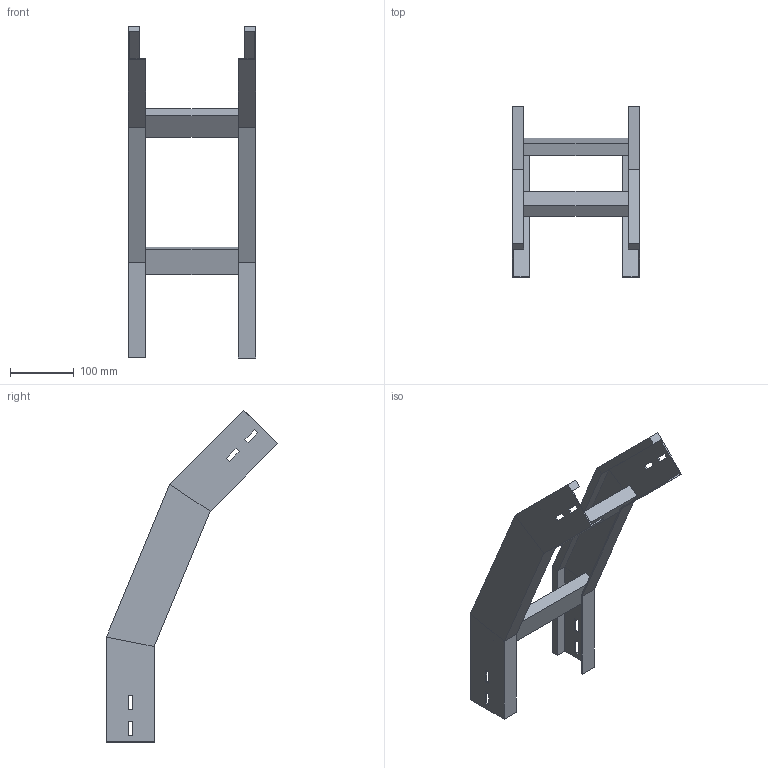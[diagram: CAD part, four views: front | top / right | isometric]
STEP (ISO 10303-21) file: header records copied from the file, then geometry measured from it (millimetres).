
FILE_DESCRIPTION (( 'STEP AP214' ), '1' );
FILE_NAME ('A2_34B3C200.step', '2025-02-21T14:54:49', ( '' ), ( '' ), 'SwSTEP 2.0', 'SolidWorks 2023', '' );
FILE_SCHEMA (( 'AUTOMOTIVE_DESIGN' ));
Length unit declared in the file: millimetre
Products named in the file (3): LONGH.DISCESA_45°_H75_R300; A2_34B3C200; TRAVERSINO_200
Assembly tree (5 placements, depth 2):
  A2_34B3C200
    LONGH.DISCESA_45°_H75_R300  x2
    TRAVERSINO_200  x3
Bounding box: 200 x 269.08 x 521.59 mm (x, y, z)
Volume: 919448.1 mm3; surface area: 338982.9 mm2
Topology: 5 solids, 5 shells, 102 faces, 244 edges, 152 vertices
Faces by surface type: plane 102
Entity records: 1480 total; most frequent: CARTESIAN_POINT 244, ORIENTED_EDGE 232, DIRECTION 228, VECTOR 116, EDGE_CURVE 116, LINE 116, VERTEX_POINT 72, AXIS2_PLACEMENT_3D 56
